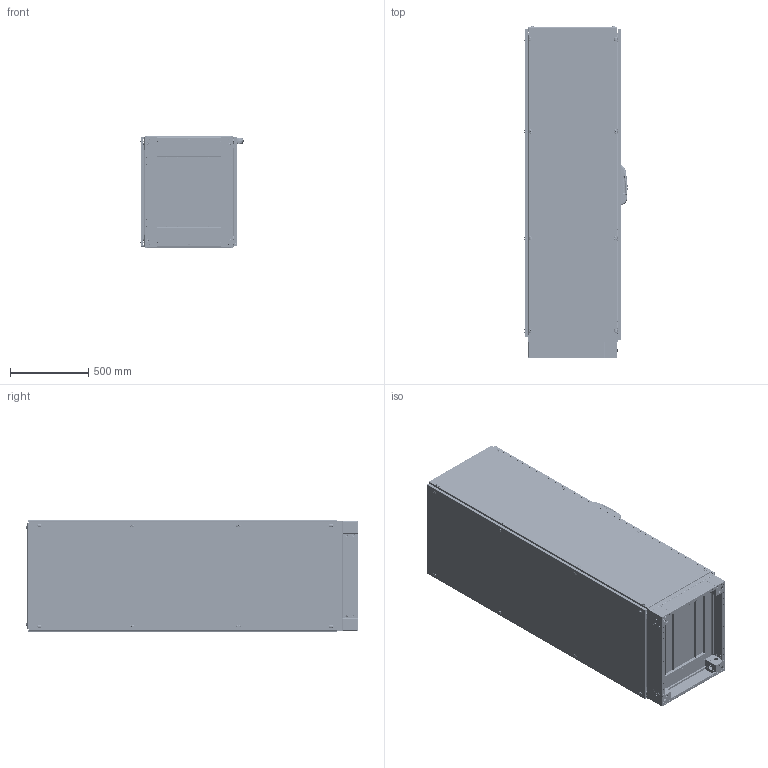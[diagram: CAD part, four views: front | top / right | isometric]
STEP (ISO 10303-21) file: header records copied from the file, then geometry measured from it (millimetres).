
FILE_DESCRIPTION (( 'STEP AP203' ), '1' );
FILE_NAME ('707.206 700x2000x600.STEP', '2020-04-06T08:16:21', ( '' ), ( '' ), 'SwSTEP 2.0', 'SolidWorks 2019', '' );
FILE_SCHEMA (( 'CONFIG_CONTROL_DESIGN' ));
Length unit declared in the file: millimetre
Products named in the file (124): 03-TABAN SACI U1 04-2012_PP 13.0031 - 700-200; PB 14.0004 M6 HAVÞA PLASTÝK CÝVATA; yan arka kapak baglantý saci orta; 03-TABAN SACI U1 04-2012_PP 13.0032 -700-75; M6 KAFES SOMU2015; M8 KAFES SOMUN_m8; M6 HAVÞA PLASTÝK CÝVATA; V3 -2011 DT BAZA KAPAGI yan_PP 12.0051 - 600; mentese bakýr kapak 09-201; MP 18.7631 32002136; MP 18.7631 Tekpan ASSEMBLY 27092017_mekanizmasiz; M8 Somun Kafesi_m8; MP 18.7631 Gövde-Plastik; arka kapi 1,5 mm gecme askili 09-2014 R3_PP 13.0025 700x2000; BAZA KÖÞES_SAG; kapali dikey profilkenetli_ita oluklu10-aaaaaaaaaaaa-1_600; delikli profil cerceve_700x2000; L KOSE DESTEKorj1; 03-taban genislik percinli 04 - 2012 100-120_PP 13.0029 - 700; Teos-Neo 3mm MOUNTING PLATE_TEOS MP 700x2000; TEOS Kilit Çubuk Pimi; kapali dikey profilkenetli_ita oluklu10-aaaaaaaaaaaa-1_700; BAZA KÖÞES_SOL; BAZA SISTEMIV2-6 baza kapaðý201550x40; TEOS Kilit Üst Çubuk_2000--MP 16.0130; MP 18.7631 204 handle REV04 tekpan logo; flat head screw_am_B18.6.7M - M6 x 1.0 x 20 Type I Cross Recessed FHMS --20N; on Kapi 10-2017 2 mm dkp_PP 17.1085 700x2000; MP 18.7631 Arka Kapak; MP 18.7631 Modul; M8 Kare Somun_m8; Ust Kapak 2009-10 gecme askili vidalý 1.5 akb rev_PP 13.0020 700x600; Mirror03-KOSE PUNT; TEOS SIDE PANEL_706.206 2000X600; 03-2012 sac kilit dil 10-2010 alt ust; pan cross head_am1_B18.6.7M - M5 x 0.8 x 10 Type I Cross Recessed PHMS --10N; TEOS Kilit Alt Çubuk Montaj_2000H; Teos-Neo MP Sað Braketi; kose rondela kabartmaSIZ 10; Teos-Neo MP Sol Braketi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
Assembly tree (385 placements, depth 7):
  707.206 700x2000x600
    TEOS iskelet_700x2000x600
      kapali dikey profilkenetli_ita oluklu10-aaaaaaaaaaaa-1_2000   x4
      kapali dikey profilkenetli_ita oluklu10-aaaaaaaaaaaa-1_600  x4
      kapali dikey profilkenetli_ita oluklu10-aaaaaaaaaaaa-1_700  x4
      L KOSE DESTEKorj1  x8
      kose rondela kabartmaSIZ 10  x15
      kose rondela kabartmaSIZ 12
      MP 11.0140 TEOS ALUMINYUM KOSE APPROVED 16.08.2010  x8
      M5 DÝKEY PROFÝL RONDELA  x16
      percinli taban-vidalý kapak-kose pls yok_701.760-70X60 ALT
        03-taban genislik percinli 04 - 2012 100-120_PP 13.0029 - 700  x2
        03taban derinlik percinli_PP 12.0025 - 600  x2
        03-KOSE PUNT_PP 12.0027
        03-KOSE PUNT
        Mirror03-KOSE PUNT  x2
        TEOS V2 BAZA S嵞TEM廆700x600
          BAZA KÖÞES_SAG
            V2 BAZA KOSESI2015_100
            BAZA SISTEMIV2-6 baza kapaðý201550x40_TEKPAN LOGOLU
            M6 KAFES SOMU2015
              kafes somun kafes
              somu
            M6 KAFES SOMU2015
              kafes somun kafes
              somu
          V2 -2011 DT BAZA KAPAGI ON_PP 13.0026 - 700  x2
          BAZA KÖÞES_SOL
            V2 BAZA KOSESI2015_100
            BAZA SISTEMIV2-6 baza kapaðý201550x40
            M6 KAFES SOMU2015
              kafes somun kafes
              somu
            M6 KAFES SOMU2015
              kafes somun kafes
              somu
          BAZA KÖÞES_SAG
            V2 BAZA KOSESI2015_100
            BAZA SISTEMIV2-6 baza kapaðý201550x40_TEKPAN LOGOLU
            M6 KAFES SOMU2015
              kafes somun kafes
              somu
            M6 KAFES SOMU2015
              kafes somun kafes
              somu
          BAZA KÖÞES_SOL
            V2 BAZA KOSESI2015_100
            BAZA SISTEMIV2-6 baza kapaðý201550x40
            M6 KAFES SOMU2015
              kafes somun kafes
              somu
            M6 KAFES SOMU2015
              kafes somun kafes
              somu
          V3 -2011 DT BAZA KAPAGI yan_PP 12.0051 - 600  x2
          flat head screw_am_B18.6.7M - M6 x 1.0 x 20 Type I Cross Recessed FHMS --20N  x8
        03-TABAN SACI SURGU_PP 13.0040 - 700  x2
        03-TABAN SACI U1 04-2012_PP 13.0032 -700-75
        03-TABAN SACI U1 04-2012_PP 13.0031 - 700-200
        mp aLT DAYAMA_PP 12.0093 - 600  x2
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Bounding box: 658.08 x 2117.1 x 718.87 mm (x, y, z)
Volume: 21870093.8 mm3; surface area: 23266141.3 mm2
Topology: 332 solids, 372 shells, 51827 faces, 140743 edges, 89356 vertices
Faces by surface type: plane 32893, cylinder 14015, bspline 2211, torus 1139, cone 960, sphere 609
Entity records: 713385 total; most frequent: CARTESIAN_POINT 296271, ORIENTED_EDGE 84878, DIRECTION 78294, EDGE_CURVE 42439, VECTOR 28362, LINE 28362, VERTEX_POINT 27190, AXIS2_PLACEMENT_3D 24966
